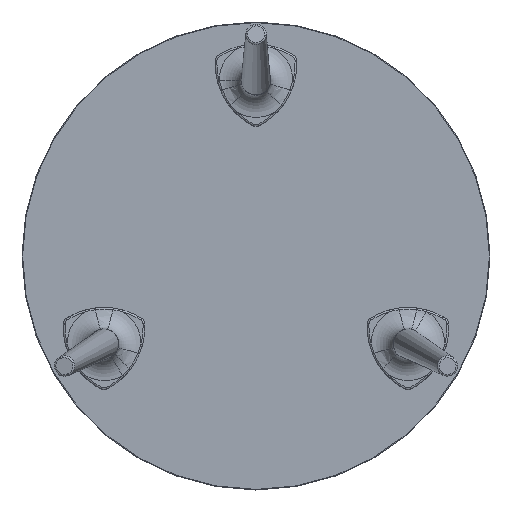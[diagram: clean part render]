
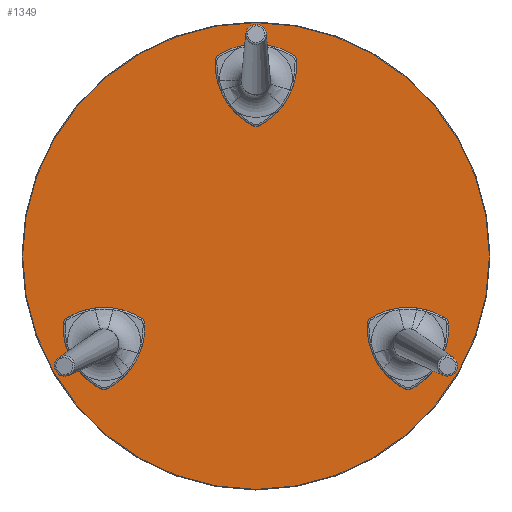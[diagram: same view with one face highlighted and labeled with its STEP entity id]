
A CAD part, top view. The second image highlights one B-rep face of the part: STEP entity #1349.
In plain terms, the highlighted planar face has unit normal (0, 0, 1).
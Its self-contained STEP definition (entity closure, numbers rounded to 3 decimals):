
#61 = DIRECTION ( 'NONE',  ( 1., 0., 0. ) ) ;
#100 = EDGE_CURVE ( 'NONE', #2410, #1017, #1371, .T. ) ;
#179 = CARTESIAN_POINT ( 'NONE',  ( 0., 0., 12. ) ) ;
#243 = CIRCLE ( 'NONE', #928, 399. ) ;
#308 = ORIENTED_EDGE ( 'NONE', *, *, #100, .T. ) ;
#324 = DIRECTION ( 'NONE',  ( 0., 0., 1. ) ) ;
#410 = DIRECTION ( 'NONE',  ( 1., 0., 0. ) ) ;
#694 = FACE_OUTER_BOUND ( 'NONE', #976, .T. ) ;
#740 = CARTESIAN_POINT ( 'NONE',  ( 0., 0., 12. ) ) ;
#928 = AXIS2_PLACEMENT_3D ( 'NONE', #1720, #324, #1959 ) ;
#976 = EDGE_LOOP ( 'NONE', ( #308, #2464 ) ) ;
#1017 = VERTEX_POINT ( 'NONE', #1339 ) ;
#1339 = CARTESIAN_POINT ( 'NONE',  ( -399., 0., 12. ) ) ;
#1349 = ADVANCED_FACE ( 'NONE', ( #694 ), #1879, .T. ) ;
#1371 = CIRCLE ( 'NONE', #2603, 399. ) ;
#1435 = DIRECTION ( 'NONE',  ( 0., 0., 1. ) ) ;
#1720 = CARTESIAN_POINT ( 'NONE',  ( 0., 0., 12. ) ) ;
#1801 = DIRECTION ( 'NONE',  ( 0., 0., 1. ) ) ;
#1860 = AXIS2_PLACEMENT_3D ( 'NONE', #740, #1435, #61 ) ;
#1879 = PLANE ( 'NONE',  #1860 ) ;
#1959 = DIRECTION ( 'NONE',  ( 1., 0., 0. ) ) ;
#2410 = VERTEX_POINT ( 'NONE', #2424 ) ;
#2424 = CARTESIAN_POINT ( 'NONE',  ( 399., 0., 12. ) ) ;
#2464 = ORIENTED_EDGE ( 'NONE', *, *, #2473, .T. ) ;
#2473 = EDGE_CURVE ( 'NONE', #1017, #2410, #243, .T. ) ;
#2603 = AXIS2_PLACEMENT_3D ( 'NONE', #179, #1801, #410 ) ;
